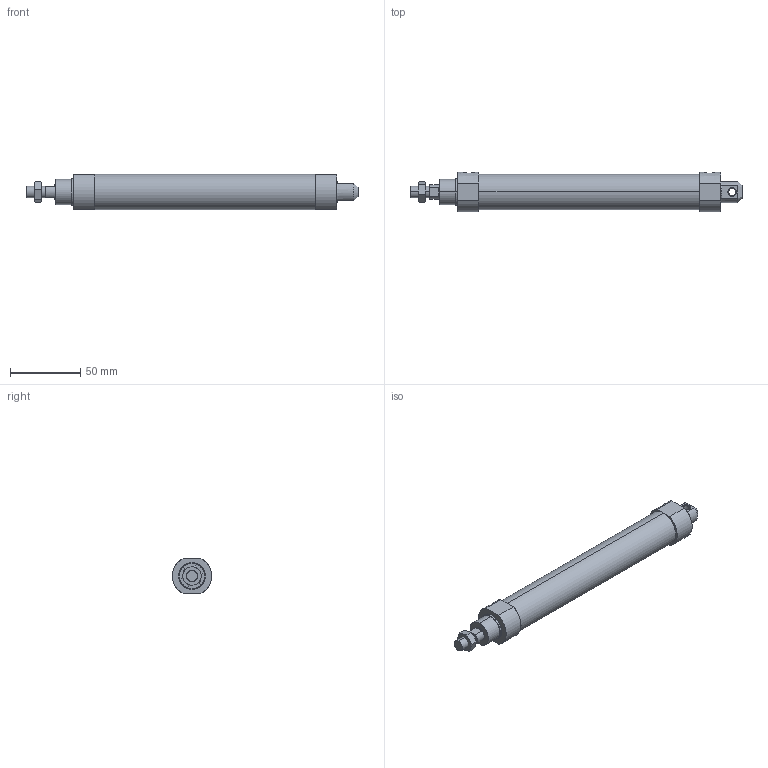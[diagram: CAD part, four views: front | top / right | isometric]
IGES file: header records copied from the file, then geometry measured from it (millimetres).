
Start section: SolidWorks IGES file using analytic representation for surfaces
Global section: file name: C:\Users\Toshiba\Desktop\J#2-20-125-C.IGS; native system: SolidWorks 2014; preprocessor: SolidWorks 2014; author: Toshiba; date: 160308.150336; units: millimetre
Bounding box: 236 x 28 x 25 mm (x, y, z)
Surface area: 19622.2 mm2 (no closed solid volume)
Topology: 0 solids, 0 shells, 78 faces, 1284 edges, 1284 vertices
Faces by surface type: bspline 48, revolution 30
